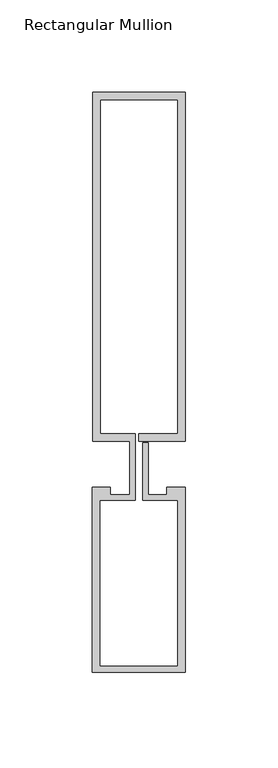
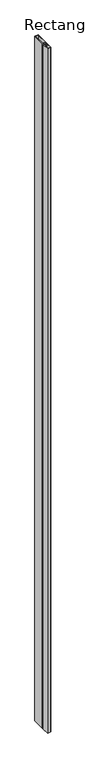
"""IFC4 building model written with IfcOpenShell, lengths in millimetres: member geometry, Rectangular Mullion : Reynaers_CW-50_Mullion-Transom_Vertical_188.5mm_Facecap-02D."""

from ifc_helpers import new_model, si_unit, frame, origin, place, context, project, spatial, polyline, outline, extrude, source, transform, mapped, element, save


def rectangular_mullion_7139fb04(model_context):
    return source(origin(), model_context, "Body", "SweptSolid", [
        extrude(outline(polyline([(-24.8004059, 201.0), (25.1995941, 201.0), (25.1995941, 12.5), (0.0, 12.5), (0.0, 16.5), (21.1995941, 16.5), (21.1995941, 197.0), (-20.8004059, 197.0), (-20.8004059, 16.5), (-1.9004059, 16.5), (-1.9004059, -19.5), (-20.994845, -19.5), (-20.994845, -109.4191338), (21.1995941, -109.4191338), (21.1995941, -19.5), (2.2995941, -19.5), (2.2995941, 11.5), (5.2995941, 11.5), (5.2995941, -16.5), (15.2996495, -16.5), (15.2996495, -12.5), (25.1995941, -12.5), (25.1995941, -112.5), (-24.994845, -112.5), (-24.994845, -12.5), (-15.2996495, -12.5), (-15.2996495, -16.5), (-4.9004059, -16.5), (-4.9004059, 12.5), (-24.8004059, 12.5), (-24.8004059, 201.0)])), frame((0.0, 0.0, -10400.0), z_axis=(0.0, 0.0, 1.0), x_axis=(1.0, 0.0, 0.0)), (0.0, 0.0, 1.0), 10400.0),
    ])


if __name__ == "__main__":
    model = new_model("IFC4")
    model_context = context("Model", 3, world=origin())
    ifc_project = project(units=[si_unit("LENGTHUNIT", "METRE", prefix="MILLI")], contexts=[model_context])
    site = spatial("IfcSite", under=ifc_project)
    building = spatial("IfcBuilding", under=site)
    placement = place(None, origin())
    rectangular_mullion_shape = rectangular_mullion_7139fb04(model_context)
    element("IfcMember", 1, ObjectType="Rectangular Mullion : Reynaers_CW-50_Mullion-Transom_Vertical_188.5mm_Facecap-02D", at=placement, inside=building, context=model_context, shape_type="MappedRepresentation", body=[
        mapped(rectangular_mullion_shape, transform((0.0, 0.0, 0.0), x_axis=(1.0, 0.0, 0.0), y_axis=(0.0, 1.0, 0.0), z_axis=(0.0, 0.0, 1.0))),
    ])
    save(model, "model.ifc")
